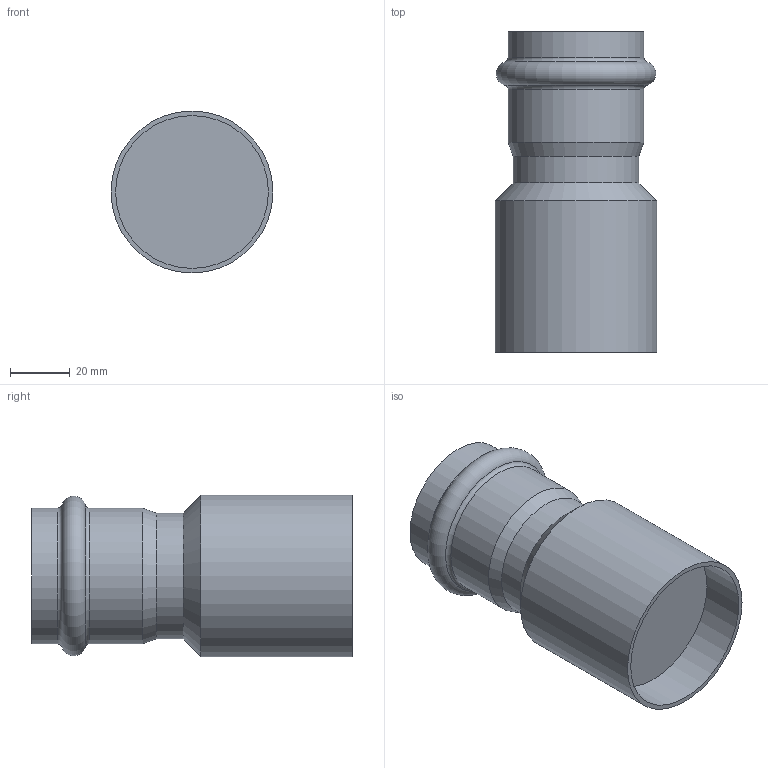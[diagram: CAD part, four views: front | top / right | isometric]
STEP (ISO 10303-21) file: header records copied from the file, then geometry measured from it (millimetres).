
FILE_DESCRIPTION(('STEP AP203'), '1');
FILE_NAME('VTi.905.I.005442', '', ('UNSPECIFIED'), ('UNSPECIFIED'), 'C3D Converter', 'C3D Toolkit', '');
FILE_SCHEMA(('CONFIG_CONTROL_DESIGN'));
Length unit declared in the file: millimetre
Bounding box: 54 x 107 x 54 mm (x, y, z)
Volume: 166464.5 mm3; surface area: 25142.8 mm2
Topology: 1 solids, 1 shells, 15 faces, 26 edges, 15 vertices
Faces by surface type: cylinder 6, plane 4, torus 3, cone 2
Full cylindrical faces by diameter (mm): 42 x1, 42.3 x1, 45.3 x2, 51 x1, 54 x1
Entity records: 344 total; most frequent: DIRECTION 62, CARTESIAN_POINT 46, AXIS2_PLACEMENT_3D 31, ORIENTED_EDGE 30, EDGE_LOOP 28, FACE_OUTER_BOUND 20, ADVANCED_FACE 15, EDGE_CURVE 15
